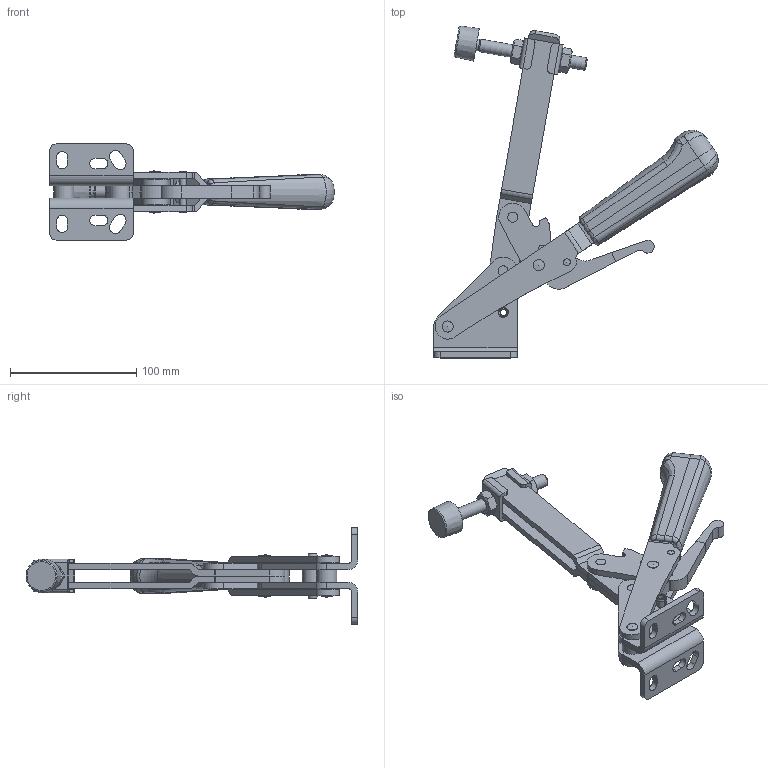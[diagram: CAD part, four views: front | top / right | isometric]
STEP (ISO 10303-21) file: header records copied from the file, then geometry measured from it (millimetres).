
FILE_DESCRIPTION(/* description */ (''),/* implementation_level */ '2;1');
FILE_NAME(/* name */ '/Users/eric/Desktop/Abco 1606B Open:Ouverte.stp',/* time_stamp */ '2014-07-26T08:39:31+02:00',/* author */ (''),/* organization */ (''),/* preprocessor_version */ 'ST-DEVELOPER v14.6',/* originating_system */ '',/* authorisation */ '');
FILE_SCHEMA (('AUTOMOTIVE_DESIGN { 1 2 10303 214 1 1 1 1 }'));
Length unit declared in the file: centimetre
Products named in the file (1): 1234-K789
Bounding box: 225.12 x 262.59 x 76 mm (x, y, z)
Volume: 273919.8 mm3; surface area: 140028.9 mm2
Topology: 38 solids, 38 shells, 484 faces, 1161 edges, 743 vertices
Faces by surface type: plane 226, cylinder 183, cone 36, bspline 24, sphere 8, torus 7
Full cylindrical faces by diameter (mm): 4 x3, 5 x8, 8 x25, 8.376 x2, 9.188 x1, 10 x1, 10.2 x2, 12 x16, 14 x4, 15.4 x2, 16 x2
Entity records: 14179 total; most frequent: CARTESIAN_POINT 3232, DIRECTION 2296, ORIENTED_EDGE 2084, EDGE_CURVE 1042, AXIS2_PLACEMENT_3D 893, VERTEX_POINT 725, EDGE_LOOP 673, LINE 510
